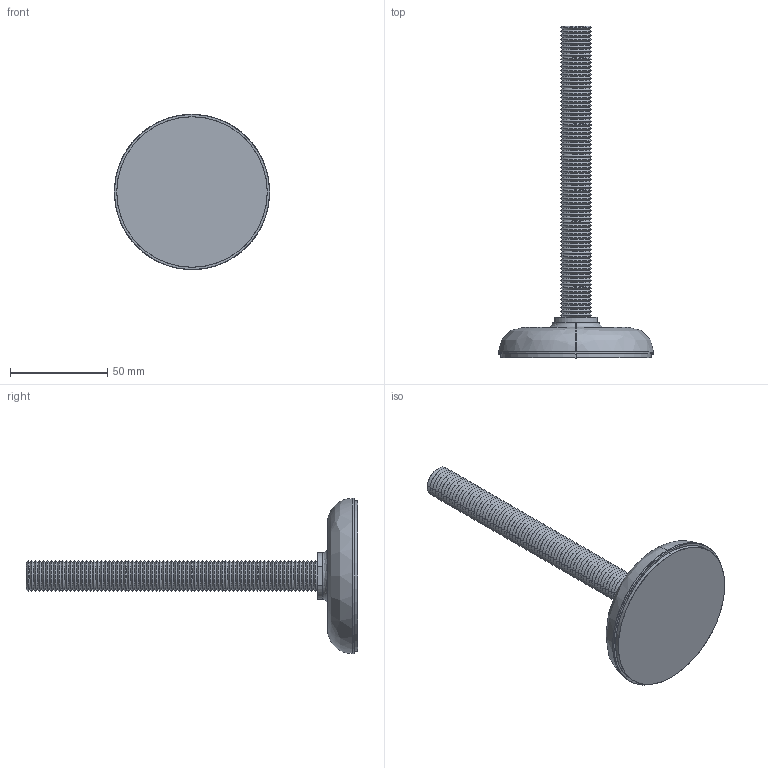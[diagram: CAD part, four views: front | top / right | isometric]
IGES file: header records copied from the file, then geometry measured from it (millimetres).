
Start section: SolidWorks IGES file using analytic representation for surfaces
Global section: file name: C:\Documents and Settings\IANO\Desktop\Temp File\Process pending\EXISTING\34780_v2\34780_v2_20170626_IGES\34780.W0161.igs; native system: SolidWorks 2009; preprocessor: SolidWorks 2009; author: IANO; date: 170626.122524; units: millimetre
Bounding box: 80 x 171 x 80 mm (x, y, z)
Surface area: 48601.6 mm2 (no closed solid volume)
Topology: 0 solids, 0 shells, 368 faces, 2482 edges, 2482 vertices
Faces by surface type: revolution 340, bspline 28
